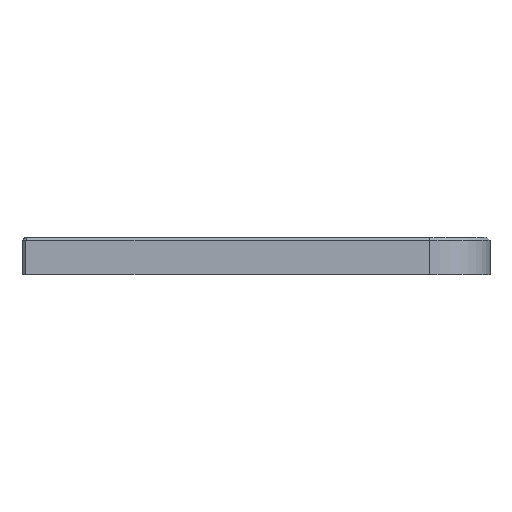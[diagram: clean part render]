
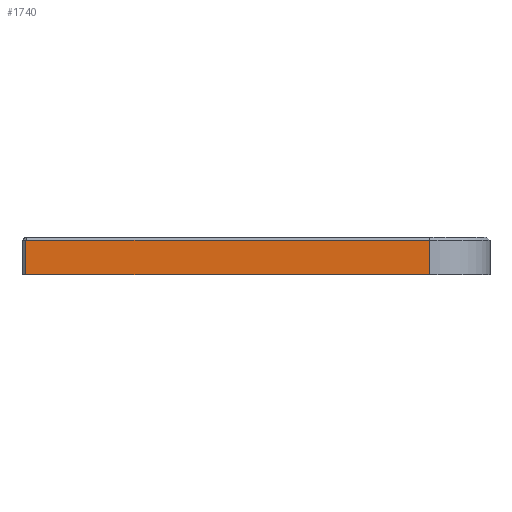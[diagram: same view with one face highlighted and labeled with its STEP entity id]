
A CAD part, left-side view. The second image highlights one B-rep face of the part: STEP entity #1740.
In plain terms, the highlighted planar face has unit normal (-1, 0, 0).
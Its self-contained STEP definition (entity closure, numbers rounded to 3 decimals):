
#11 = EDGE_LOOP ( 'NONE', ( #2460, #801, #943, #1640 ) ) ;
#75 = AXIS2_PLACEMENT_3D ( 'NONE', #2326, #2545, #1951 ) ;
#182 = CARTESIAN_POINT ( 'NONE',  ( -29., 0., 4.6 ) ) ;
#414 = DIRECTION ( 'NONE',  ( 0., 0., -1. ) ) ;
#483 = VECTOR ( 'NONE', #489, 1000. ) ;
#489 = DIRECTION ( 'NONE',  ( 0., 1., 0. ) ) ;
#617 = VECTOR ( 'NONE', #2113, 1000. ) ;
#622 = PLANE ( 'NONE',  #75 ) ;
#623 = VECTOR ( 'NONE', #2232, 1000. ) ;
#643 = CARTESIAN_POINT ( 'NONE',  ( -29., -23., 0. ) ) ;
#801 = ORIENTED_EDGE ( 'NONE', *, *, #2199, .T. ) ;
#847 = CARTESIAN_POINT ( 'NONE',  ( -29., -23., 5. ) ) ;
#943 = ORIENTED_EDGE ( 'NONE', *, *, #1005, .T. ) ;
#1005 = EDGE_CURVE ( 'NONE', #2470, #2217, #2150, .T. ) ;
#1026 = CARTESIAN_POINT ( 'NONE',  ( -29., 30.5, 5. ) ) ;
#1042 = CARTESIAN_POINT ( 'NONE',  ( -29., 0., 0. ) ) ;
#1135 = EDGE_CURVE ( 'NONE', #2375, #2217, #2227, .T. ) ;
#1453 = LINE ( 'NONE', #847, #623 ) ;
#1462 = CARTESIAN_POINT ( 'NONE',  ( -29., -23., 4.6 ) ) ;
#1543 = VERTEX_POINT ( 'NONE', #1462 ) ;
#1640 = ORIENTED_EDGE ( 'NONE', *, *, #1135, .F. ) ;
#1740 = ADVANCED_FACE ( 'NONE', ( #1780 ), #622, .T. ) ;
#1780 = FACE_OUTER_BOUND ( 'NONE', #11, .T. ) ;
#1884 = EDGE_CURVE ( 'NONE', #2375, #1543, #1453, .T. ) ;
#1951 = DIRECTION ( 'NONE',  ( 0., 0., 1. ) ) ;
#2113 = DIRECTION ( 'NONE',  ( 0., 1., 0. ) ) ;
#2150 = LINE ( 'NONE', #1026, #2430 ) ;
#2199 = EDGE_CURVE ( 'NONE', #1543, #2470, #2543, .T. ) ;
#2217 = VERTEX_POINT ( 'NONE', #2352 ) ;
#2227 = LINE ( 'NONE', #1042, #483 ) ;
#2232 = DIRECTION ( 'NONE',  ( 0., 0., 1. ) ) ;
#2326 = CARTESIAN_POINT ( 'NONE',  ( -29., 0., 5. ) ) ;
#2352 = CARTESIAN_POINT ( 'NONE',  ( -29., 30.5, 0. ) ) ;
#2375 = VERTEX_POINT ( 'NONE', #643 ) ;
#2430 = VECTOR ( 'NONE', #414, 1000. ) ;
#2460 = ORIENTED_EDGE ( 'NONE', *, *, #1884, .T. ) ;
#2461 = CARTESIAN_POINT ( 'NONE',  ( -29., 30.5, 4.6 ) ) ;
#2470 = VERTEX_POINT ( 'NONE', #2461 ) ;
#2543 = LINE ( 'NONE', #182, #617 ) ;
#2545 = DIRECTION ( 'NONE',  ( -1., 0., 0. ) ) ;
